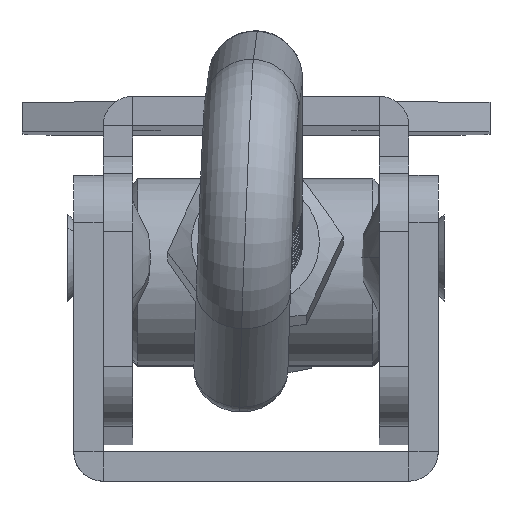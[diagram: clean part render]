
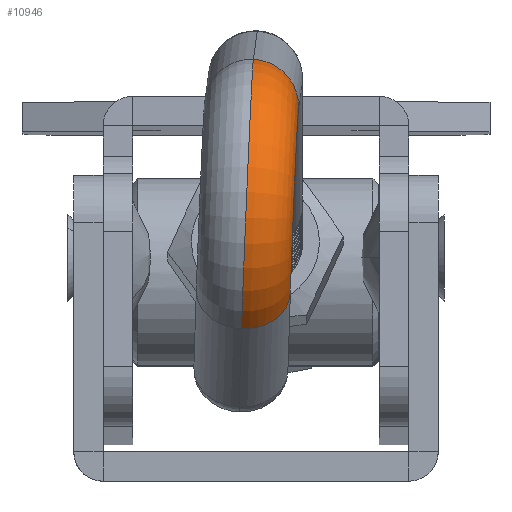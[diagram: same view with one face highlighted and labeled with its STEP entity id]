
A CAD part, left-side view. The second image highlights one B-rep face of the part: STEP entity #10946.
In plain terms, the highlighted toroidal (fillet/blend) face has major radius 8.8 mm and minor radius 4 mm.
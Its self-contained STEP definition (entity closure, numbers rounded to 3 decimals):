
#437 = CARTESIAN_POINT ( 'NONE',  ( 2801.282, -717.343, 0. ) ) ;
#865 = CARTESIAN_POINT ( 'NONE',  ( 2800.6, -737.547, 0. ) ) ;
#1957 = CIRCLE ( 'NONE', #10760, 12.8 ) ;
#2528 = EDGE_CURVE ( 'NONE', #7801, #12686, #3331, .T. ) ;
#2730 = DIRECTION ( 'NONE',  ( 0., 0., 1. ) ) ;
#2830 = DIRECTION ( 'NONE',  ( 0., 0., 1. ) ) ;
#2933 = AXIS2_PLACEMENT_3D ( 'NONE', #865, #8171, #3280 ) ;
#3230 = ORIENTED_EDGE ( 'NONE', *, *, #12052, .T. ) ;
#3280 = DIRECTION ( 'NONE',  ( 0.454, 0.891, 0. ) ) ;
#3319 = EDGE_LOOP ( 'NONE', ( #3405, #3230, #4868, #7329 ) ) ;
#3331 = CIRCLE ( 'NONE', #12132, 4.8 ) ;
#3405 = ORIENTED_EDGE ( 'NONE', *, *, #15320, .T. ) ;
#3436 = AXIS2_PLACEMENT_3D ( 'NONE', #14714, #2730, #3746 ) ;
#3465 = CIRCLE ( 'NONE', #5253, 4. ) ;
#3746 = DIRECTION ( 'NONE',  ( 1., 0., 0. ) ) ;
#4868 = ORIENTED_EDGE ( 'NONE', *, *, #13411, .F. ) ;
#5253 = AXIS2_PLACEMENT_3D ( 'NONE', #9356, #6350, #6195 ) ;
#5534 = VERTEX_POINT ( 'NONE', #13976 ) ;
#6195 = DIRECTION ( 'NONE',  ( 0.259, -0.966, 0. ) ) ;
#6350 = DIRECTION ( 'NONE',  ( -0.966, -0.259, 0. ) ) ;
#7234 = VERTEX_POINT ( 'NONE', #437 ) ;
#7329 = ORIENTED_EDGE ( 'NONE', *, *, #2528, .F. ) ;
#7801 = VERTEX_POINT ( 'NONE', #14969 ) ;
#8171 = DIRECTION ( 'NONE',  ( 0.891, -0.454, 0. ) ) ;
#8348 = DIRECTION ( 'NONE',  ( 0., 0., 1. ) ) ;
#9356 = CARTESIAN_POINT ( 'NONE',  ( 2802.317, -721.206, 0. ) ) ;
#10591 = CARTESIAN_POINT ( 'NONE',  ( 2802.416, -733.983, 0. ) ) ;
#10744 = CIRCLE ( 'NONE', #2933, 4. ) ;
#10760 = AXIS2_PLACEMENT_3D ( 'NONE', #14724, #8348, #14407 ) ;
#10946 = ADVANCED_FACE ( 'NONE', ( #12340 ), #15271, .T. ) ;
#12052 = EDGE_CURVE ( 'NONE', #7234, #5534, #1957, .T. ) ;
#12132 = AXIS2_PLACEMENT_3D ( 'NONE', #14737, #2830, #12438 ) ;
#12340 = FACE_OUTER_BOUND ( 'NONE', #3319, .T. ) ;
#12438 = DIRECTION ( 'NONE',  ( 1., 0., 0. ) ) ;
#12686 = VERTEX_POINT ( 'NONE', #10591 ) ;
#13411 = EDGE_CURVE ( 'NONE', #12686, #5534, #10744, .T. ) ;
#13976 = CARTESIAN_POINT ( 'NONE',  ( 2798.784, -741.111, 0. ) ) ;
#14407 = DIRECTION ( 'NONE',  ( 1., 0., 0. ) ) ;
#14714 = CARTESIAN_POINT ( 'NONE',  ( 2804.595, -729.706, 0. ) ) ;
#14724 = CARTESIAN_POINT ( 'NONE',  ( 2804.595, -729.706, 0. ) ) ;
#14737 = CARTESIAN_POINT ( 'NONE',  ( 2804.595, -729.706, 0. ) ) ;
#14969 = CARTESIAN_POINT ( 'NONE',  ( 2803.353, -725.07, 0. ) ) ;
#15271 = TOROIDAL_SURFACE ( 'NONE', #3436, 8.8, 4. ) ;
#15320 = EDGE_CURVE ( 'NONE', #7801, #7234, #3465, .T. ) ;
